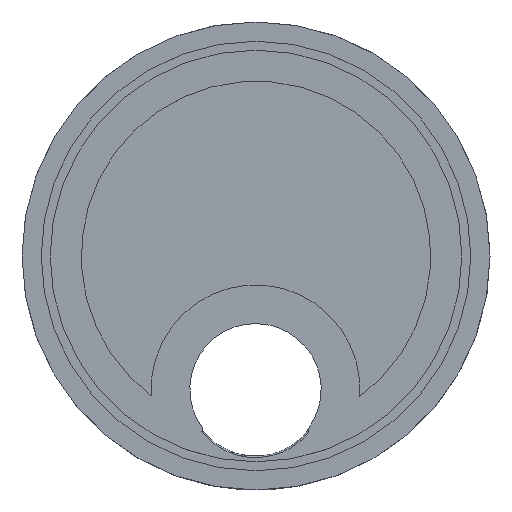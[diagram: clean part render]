
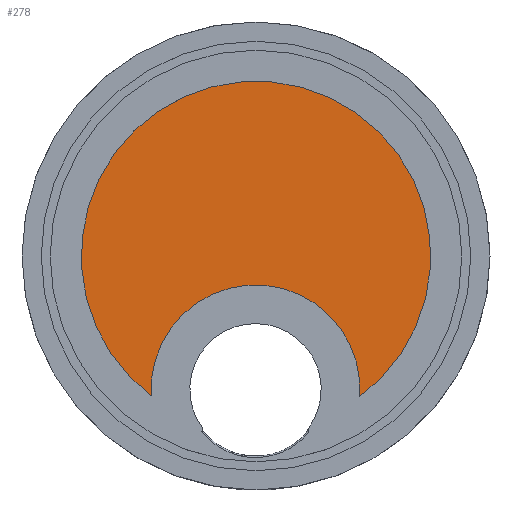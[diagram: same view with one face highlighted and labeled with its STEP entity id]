
A CAD part, top view. The second image highlights one B-rep face of the part: STEP entity #278.
In plain terms, the highlighted planar face has unit normal (0, 0, 1).
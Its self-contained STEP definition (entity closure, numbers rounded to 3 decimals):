
#64=FACE_OUTER_BOUND('',#86,.T.);
#86=EDGE_LOOP('',(#218,#219));
#114=CIRCLE('',#325,59.);
#115=CIRCLE('',#326,35.245);
#139=VERTEX_POINT('',#581);
#140=VERTEX_POINT('',#582);
#170=EDGE_CURVE('',#139,#140,#114,.T.);
#171=EDGE_CURVE('',#140,#139,#115,.T.);
#218=ORIENTED_EDGE('',*,*,#170,.F.);
#219=ORIENTED_EDGE('',*,*,#171,.F.);
#267=PLANE('',#324);
#278=ADVANCED_FACE('',(#64),#267,.T.);
#324=AXIS2_PLACEMENT_3D('',#580,#387,#388);
#325=AXIS2_PLACEMENT_3D('',#583,#389,#390);
#326=AXIS2_PLACEMENT_3D('',#584,#391,#392);
#387=DIRECTION('center_axis',(0.,0.,1.));
#388=DIRECTION('ref_axis',(1.,0.,0.));
#389=DIRECTION('center_axis',(0.,0.,-1.));
#390=DIRECTION('ref_axis',(-1.,0.,0.));
#391=DIRECTION('center_axis',(0.,0.,1.));
#392=DIRECTION('ref_axis',(0.345,-0.939,0.));
#580=CARTESIAN_POINT('Origin',(0.,0.,7.));
#581=CARTESIAN_POINT('',(-35.332,-47.251,7.));
#582=CARTESIAN_POINT('',(34.997,-47.5,7.));
#583=CARTESIAN_POINT('Origin',(0.,0.,7.));
#584=CARTESIAN_POINT('Origin',(-0.159,-45.,7.));
